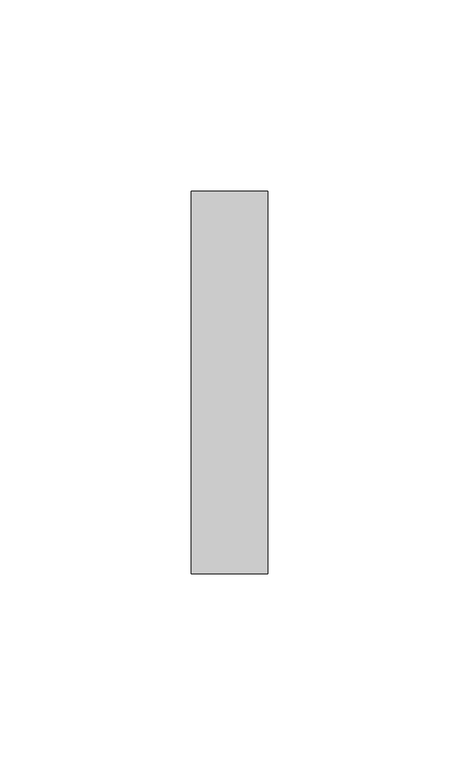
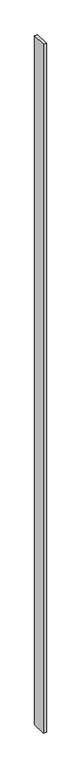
"""IFC4 building model written with IfcOpenShell, lengths in millimetres: plate geometry, システム パネルなし : なし."""

from ifc_helpers import new_model, si_unit, origin, origin_with_axes, place, context, project, spatial, polyline, outline, extrude, source, transform, mapped, element, save


def plate_b335856c(model_context):
    return source(origin(), model_context, "Body", "SweptSolid", [
        extrude(outline(polyline([(10.0, -50.0), (-10.0, -50.0), (-10.0, 50.0), (10.0, 50.0), (10.0, -50.0)])), origin_with_axes(), (0.0, 0.0, 1.0), 4871.75),
    ])


if __name__ == "__main__":
    model = new_model("IFC4")
    model_context = context("Model", 3, world=origin())
    ifc_project = project(units=[si_unit("LENGTHUNIT", "METRE", prefix="MILLI")], contexts=[model_context])
    site = spatial("IfcSite", under=ifc_project)
    building = spatial("IfcBuilding", under=site)
    placement = place(None, origin())
    plate_shape = plate_b335856c(model_context)
    element("IfcPlate", 1, ObjectType="システム パネルなし : なし", at=placement, inside=building, context=model_context, shape_type="MappedRepresentation", body=[
        mapped(plate_shape, transform((0.0, 0.0, 0.0), x_axis=(1.0, 0.0, 0.0), y_axis=(0.0, 1.0, 0.0), z_axis=(0.0, 0.0, 1.0))),
    ])
    save(model, "model.ifc")
